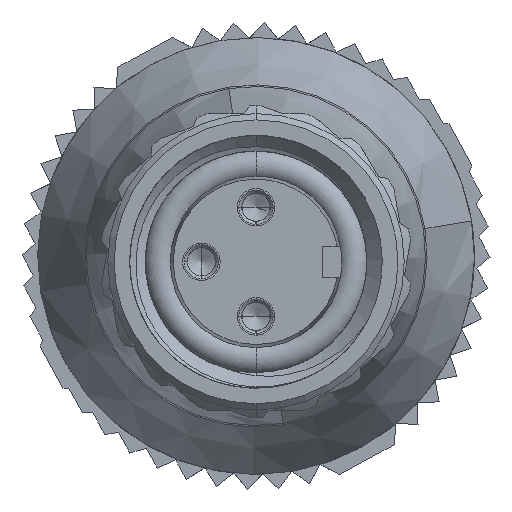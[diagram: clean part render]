
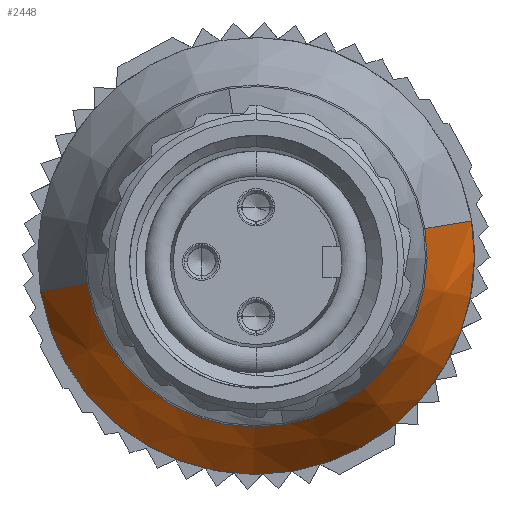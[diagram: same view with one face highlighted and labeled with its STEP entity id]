
A CAD part, left-side view. The second image highlights one B-rep face of the part: STEP entity #2448.
In plain terms, the highlighted conical face has half-angle 26.565 degrees and reference radius 7 mm.
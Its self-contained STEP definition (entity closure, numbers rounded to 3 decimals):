
#650 = DIRECTION ( 'NONE',  ( -1., 0., 0. ) ) ;
#676 = CARTESIAN_POINT ( 'NONE',  ( 120.999, -9.243, 104.338 ) ) ;
#1035 = VERTEX_POINT ( 'NONE', #27927 ) ;
#2448 = ADVANCED_FACE ( 'NONE', ( #3000 ), #8956, .T. ) ;
#2468 = VECTOR ( 'NONE', #26617, 1000. ) ;
#2803 = CARTESIAN_POINT ( 'NONE',  ( 117.637, -10.097, 99.088 ) ) ;
#2845 = CIRCLE ( 'NONE', #9200, 5.319 ) ;
#3000 = FACE_OUTER_BOUND ( 'NONE', #5791, .T. ) ;
#4640 = AXIS2_PLACEMENT_3D ( 'NONE', #39603, #35035, #44191 ) ;
#5511 = DIRECTION ( 'NONE',  ( 0., -1., 0. ) ) ;
#5791 = EDGE_LOOP ( 'NONE', ( #14299, #11110, #32204, #21288, #29224, #14749 ) ) ;
#8608 = CARTESIAN_POINT ( 'NONE',  ( 120.999, -16.152, 105.462 ) ) ;
#8956 = CONICAL_SURFACE ( 'NONE', #44569, 7., 0.464 ) ;
#9200 = AXIS2_PLACEMENT_3D ( 'NONE', #35851, #19747, #22414 ) ;
#11048 = CIRCLE ( 'NONE', #4640, 5.319 ) ;
#11110 = ORIENTED_EDGE ( 'NONE', *, *, #19300, .T. ) ;
#11396 = AXIS2_PLACEMENT_3D ( 'NONE', #23248, #650, #5511 ) ;
#11972 = VECTOR ( 'NONE', #55205, 1000. ) ;
#14299 = ORIENTED_EDGE ( 'NONE', *, *, #26742, .F. ) ;
#14749 = ORIENTED_EDGE ( 'NONE', *, *, #47420, .F. ) ;
#19300 = EDGE_CURVE ( 'NONE', #46011, #52162, #32567, .T. ) ;
#19747 = DIRECTION ( 'NONE',  ( -1., 0., 0. ) ) ;
#20476 = EDGE_CURVE ( 'NONE', #1035, #43986, #43497, .T. ) ;
#21111 = CIRCLE ( 'NONE', #54910, 7. ) ;
#21288 = ORIENTED_EDGE ( 'NONE', *, *, #32780, .T. ) ;
#21611 = VERTEX_POINT ( 'NONE', #2803 ) ;
#22414 = DIRECTION ( 'NONE',  ( 0., -1., 0. ) ) ;
#23248 = CARTESIAN_POINT ( 'NONE',  ( 120.999, -9.243, 104.338 ) ) ;
#24462 = CARTESIAN_POINT ( 'NONE',  ( 120.999, -9.243, 104.338 ) ) ;
#25030 = DIRECTION ( 'NONE',  ( 0., -0.987, 0.161 ) ) ;
#26617 = DIRECTION ( 'NONE',  ( 0.894, -0.441, 0.072 ) ) ;
#26742 = EDGE_CURVE ( 'NONE', #46011, #21611, #2845, .T. ) ;
#26799 = EDGE_CURVE ( 'NONE', #52162, #37716, #21111, .T. ) ;
#27927 = CARTESIAN_POINT ( 'NONE',  ( 117.637, -14.493, 105.192 ) ) ;
#29224 = ORIENTED_EDGE ( 'NONE', *, *, #20476, .F. ) ;
#32204 = ORIENTED_EDGE ( 'NONE', *, *, #26799, .T. ) ;
#32567 = LINE ( 'NONE', #54619, #11972 ) ;
#32780 = EDGE_CURVE ( 'NONE', #37716, #43986, #36041, .T. ) ;
#35035 = DIRECTION ( 'NONE',  ( -1., 0., 0. ) ) ;
#35851 = CARTESIAN_POINT ( 'NONE',  ( 117.637, -9.243, 104.338 ) ) ;
#36041 = CIRCLE ( 'NONE', #11396, 7. ) ;
#37716 = VERTEX_POINT ( 'NONE', #44195 ) ;
#39603 = CARTESIAN_POINT ( 'NONE',  ( 117.637, -9.243, 104.338 ) ) ;
#41310 = CARTESIAN_POINT ( 'NONE',  ( 120.999, -2.334, 103.215 ) ) ;
#41318 = DIRECTION ( 'NONE',  ( 1., 0., 0. ) ) ;
#43409 = CARTESIAN_POINT ( 'NONE',  ( 117.637, -3.993, 103.485 ) ) ;
#43497 = LINE ( 'NONE', #8608, #2468 ) ;
#43986 = VERTEX_POINT ( 'NONE', #48311 ) ;
#44191 = DIRECTION ( 'NONE',  ( 0., -1., 0. ) ) ;
#44195 = CARTESIAN_POINT ( 'NONE',  ( 120.999, -10.366, 97.429 ) ) ;
#44569 = AXIS2_PLACEMENT_3D ( 'NONE', #24462, #41318, #25030 ) ;
#45788 = DIRECTION ( 'NONE',  ( 0., -1., 0. ) ) ;
#46011 = VERTEX_POINT ( 'NONE', #43409 ) ;
#47420 = EDGE_CURVE ( 'NONE', #21611, #1035, #11048, .T. ) ;
#48311 = CARTESIAN_POINT ( 'NONE',  ( 120.999, -16.152, 105.462 ) ) ;
#48743 = DIRECTION ( 'NONE',  ( -1., 0., 0. ) ) ;
#52162 = VERTEX_POINT ( 'NONE', #41310 ) ;
#54619 = CARTESIAN_POINT ( 'NONE',  ( 120.999, -2.334, 103.215 ) ) ;
#54910 = AXIS2_PLACEMENT_3D ( 'NONE', #676, #48743, #45788 ) ;
#55205 = DIRECTION ( 'NONE',  ( 0.894, 0.441, -0.072 ) ) ;
